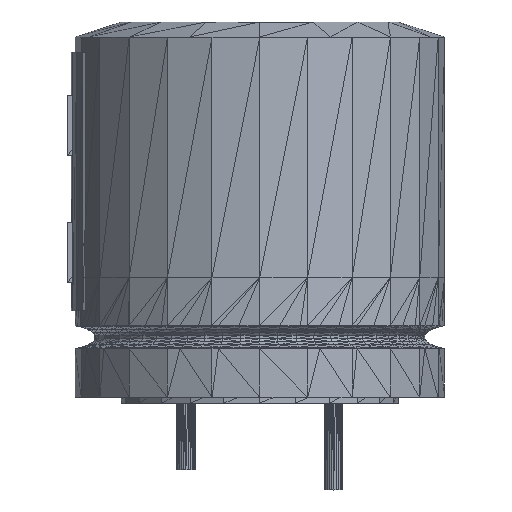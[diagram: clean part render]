
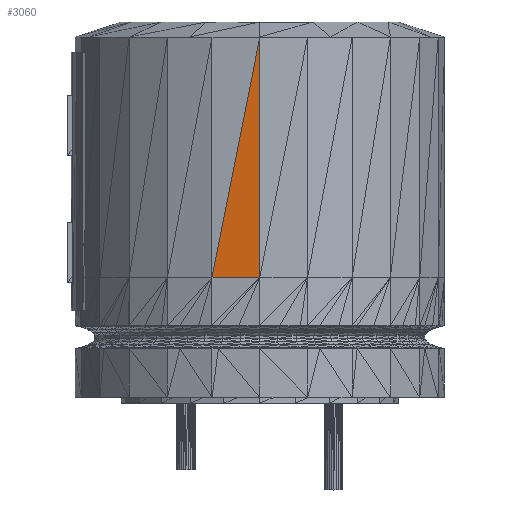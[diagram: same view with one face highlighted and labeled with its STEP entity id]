
A CAD part, front view. The second image highlights one B-rep face of the part: STEP entity #3060.
In plain terms, the highlighted planar face has unit normal (-0.131, -0.991, 0).
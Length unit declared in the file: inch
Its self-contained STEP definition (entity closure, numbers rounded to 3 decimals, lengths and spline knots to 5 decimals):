
#2276=CARTESIAN_POINT('',(0.,-0.2501,0.49557));
#2277=VERTEX_POINT('',#2276);
#3004=CARTESIAN_POINT('',(0.,-0.25004,0.17058));
#3005=VERTEX_POINT('',#3004);
#3028=CARTESIAN_POINT('',(0.,-0.25003,0.17058));
#3029=DIRECTION('',(0.,0.,1.));
#3030=VECTOR('',#3029,0.32499);
#3031=LINE('',#3028,#3030);
#3032=EDGE_CURVE('',#3005,#2277,#3031,.T.);
#3038=CARTESIAN_POINT('',(0.,-0.2501,0.49557));
#3039=DIRECTION('',(0.131,0.991,0.));
#3040=DIRECTION('',(0.991,-0.131,0.));
#3041=AXIS2_PLACEMENT_3D('',#3038,#3039,#3040);
#3042=PLANE('',#3041);
#3043=CARTESIAN_POINT('',(-0.0647,-0.24152,0.17058));
#3044=VERTEX_POINT('',#3043);
#3045=CARTESIAN_POINT('',(-0.0647,-0.24152,0.17058));
#3046=DIRECTION('',(0.195,-0.026,0.98));
#3047=VECTOR('',#3046,0.33148);
#3048=LINE('',#3045,#3047);
#3049=EDGE_CURVE('',#3044,#2277,#3048,.T.);
#3050=ORIENTED_EDGE('',*,*,#3049,.F.);
#3051=CARTESIAN_POINT('',(0.,-0.25003,0.17058));
#3052=DIRECTION('',(-0.991,0.131,0.));
#3053=VECTOR('',#3052,0.06526);
#3054=LINE('',#3051,#3053);
#3055=EDGE_CURVE('',#3005,#3044,#3054,.T.);
#3056=ORIENTED_EDGE('',*,*,#3055,.F.);
#3057=ORIENTED_EDGE('',*,*,#3032,.T.);
#3058=EDGE_LOOP('',(#3050,#3056,#3057));
#3059=FACE_BOUND('',#3058,.T.);
#3060=ADVANCED_FACE('',(#3059),#3042,.F.);
